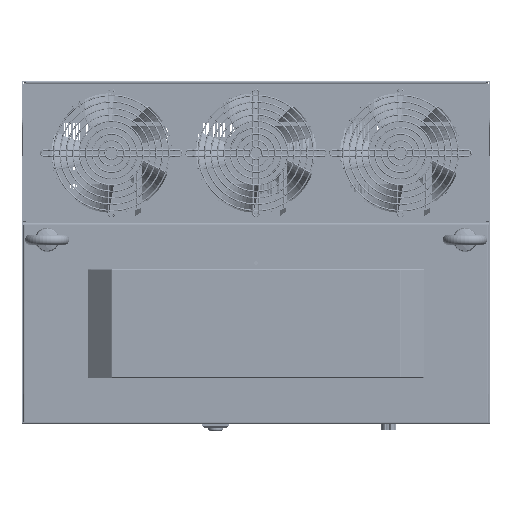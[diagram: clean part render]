
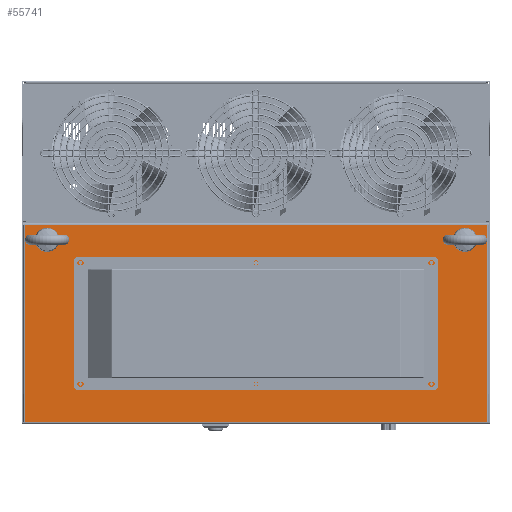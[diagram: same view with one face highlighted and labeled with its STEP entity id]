
A CAD part, left-side view. The second image highlights one B-rep face of the part: STEP entity #55741.
In plain terms, the highlighted planar face has unit normal (-1, 0, 0).
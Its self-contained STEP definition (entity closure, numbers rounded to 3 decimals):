
#51113=DIRECTION('',(0.,-1.,0.));
#51114=VECTOR('',#51113,553.6);
#51115=CARTESIAN_POINT('',(-469.25,276.8,-408.3));
#51116=LINE('',#51115,#51114);
#51264=DIRECTION('',(0.,0.,1.));
#51265=VECTOR('',#51264,236.6);
#51266=CARTESIAN_POINT('',(-469.25,-276.8,-408.3));
#51267=LINE('',#51266,#51265);
#51436=DIRECTION('',(0.,1.,0.));
#51437=VECTOR('',#51436,553.6);
#51438=CARTESIAN_POINT('',(-469.25,-276.8,-171.7));
#51439=LINE('',#51438,#51437);
#52088=DIRECTION('',(0.,0.,-1.));
#52089=VECTOR('',#52088,236.6);
#52090=CARTESIAN_POINT('',(-469.25,276.8,-171.7));
#52091=LINE('',#52090,#52089);
#52095=CARTESIAN_POINT('',(-469.25,250.,-190.));
#52096=DIRECTION('',(-1.,0.,0.));
#52097=DIRECTION('',(0.,-1.,0.));
#52098=AXIS2_PLACEMENT_3D('',#52095,#52096,#52097);
#52103=CARTESIAN_POINT('',(-469.25,250.,-190.));
#52104=DIRECTION('',(-1.,0.,0.));
#52105=DIRECTION('',(0.,1.,0.));
#52106=AXIS2_PLACEMENT_3D('',#52103,#52104,#52105);
#52111=CARTESIAN_POINT('',(-469.25,-250.,-190.));
#52112=DIRECTION('',(-1.,0.,0.));
#52113=DIRECTION('',(0.,-1.,0.));
#52114=AXIS2_PLACEMENT_3D('',#52111,#52112,#52113);
#52119=CARTESIAN_POINT('',(-469.25,-250.,-190.));
#52120=DIRECTION('',(-1.,0.,0.));
#52121=DIRECTION('',(0.,1.,0.));
#52122=AXIS2_PLACEMENT_3D('',#52119,#52120,#52121);
#52127=CARTESIAN_POINT('',(-469.25,210.,-362.5));
#52128=DIRECTION('',(-1.,0.,0.));
#52129=DIRECTION('',(0.,-1.,0.));
#52130=AXIS2_PLACEMENT_3D('',#52127,#52128,#52129);
#52135=CARTESIAN_POINT('',(-469.25,210.,-362.5));
#52136=DIRECTION('',(-1.,0.,0.));
#52137=DIRECTION('',(0.,1.,0.));
#52138=AXIS2_PLACEMENT_3D('',#52135,#52136,#52137);
#52143=CARTESIAN_POINT('',(-469.25,210.,-217.5));
#52144=DIRECTION('',(-1.,0.,0.));
#52145=DIRECTION('',(0.,-1.,0.));
#52146=AXIS2_PLACEMENT_3D('',#52143,#52144,#52145);
#52151=CARTESIAN_POINT('',(-469.25,210.,-217.5));
#52152=DIRECTION('',(-1.,0.,0.));
#52153=DIRECTION('',(0.,1.,0.));
#52154=AXIS2_PLACEMENT_3D('',#52151,#52152,#52153);
#52159=CARTESIAN_POINT('',(-469.25,0.,-217.5));
#52160=DIRECTION('',(-1.,0.,0.));
#52161=DIRECTION('',(0.,-1.,0.));
#52162=AXIS2_PLACEMENT_3D('',#52159,#52160,#52161);
#52167=CARTESIAN_POINT('',(-469.25,0.,-217.5));
#52168=DIRECTION('',(-1.,0.,0.));
#52169=DIRECTION('',(0.,1.,0.));
#52170=AXIS2_PLACEMENT_3D('',#52167,#52168,#52169);
#52175=CARTESIAN_POINT('',(-469.25,0.,-362.5));
#52176=DIRECTION('',(-1.,0.,0.));
#52177=DIRECTION('',(0.,-1.,0.));
#52178=AXIS2_PLACEMENT_3D('',#52175,#52176,#52177);
#52183=CARTESIAN_POINT('',(-469.25,0.,-362.5));
#52184=DIRECTION('',(-1.,0.,0.));
#52185=DIRECTION('',(0.,1.,0.));
#52186=AXIS2_PLACEMENT_3D('',#52183,#52184,#52185);
#52191=CARTESIAN_POINT('',(-469.25,-210.,-362.5));
#52192=DIRECTION('',(-1.,0.,0.));
#52193=DIRECTION('',(0.,-1.,0.));
#52194=AXIS2_PLACEMENT_3D('',#52191,#52192,#52193);
#52199=CARTESIAN_POINT('',(-469.25,-210.,-362.5));
#52200=DIRECTION('',(-1.,0.,0.));
#52201=DIRECTION('',(0.,1.,0.));
#52202=AXIS2_PLACEMENT_3D('',#52199,#52200,#52201);
#52207=CARTESIAN_POINT('',(-469.25,-210.,-217.5));
#52208=DIRECTION('',(-1.,0.,0.));
#52209=DIRECTION('',(0.,-1.,0.));
#52210=AXIS2_PLACEMENT_3D('',#52207,#52208,#52209);
#52215=CARTESIAN_POINT('',(-469.25,-210.,-217.5));
#52216=DIRECTION('',(-1.,0.,0.));
#52217=DIRECTION('',(0.,1.,0.));
#52218=AXIS2_PLACEMENT_3D('',#52215,#52216,#52217);
#52893=DIRECTION('',(0.,0.,-1.));
#52894=VECTOR('',#52893,2.);
#52895=CARTESIAN_POINT('',(-469.25,-193.5,-331.2));
#52896=LINE('',#52895,#52894);
#53009=DIRECTION('',(0.,0.,-1.));
#53010=VECTOR('',#53009,2.);
#53011=CARTESIAN_POINT('',(-469.25,-193.5,-246.8));
#53012=LINE('',#53011,#53010);
#53016=DIRECTION('',(0.,-1.,0.));
#53017=VECTOR('',#53016,277.);
#53018=CARTESIAN_POINT('',(-469.25,83.5,-246.8));
#53019=LINE('',#53018,#53017);
#53037=DIRECTION('',(0.,0.,1.));
#53038=VECTOR('',#53037,2.);
#53039=CARTESIAN_POINT('',(-469.25,83.5,-248.8));
#53040=LINE('',#53039,#53038);
#53153=DIRECTION('',(0.,0.,1.));
#53154=VECTOR('',#53153,2.);
#53155=CARTESIAN_POINT('',(-469.25,83.5,-333.2));
#53156=LINE('',#53155,#53154);
#53160=DIRECTION('',(0.,1.,0.));
#53161=VECTOR('',#53160,277.);
#53162=CARTESIAN_POINT('',(-469.25,-193.5,-333.2));
#53163=LINE('',#53162,#53161);
#53181=DIRECTION('',(0.,0.,1.));
#53182=VECTOR('',#53181,82.4);
#53183=CARTESIAN_POINT('',(-469.25,83.5,-331.2));
#53184=LINE('',#53183,#53182);
#53216=DIRECTION('',(0.,0.,-1.));
#53217=VECTOR('',#53216,82.4);
#53218=CARTESIAN_POINT('',(-469.25,-193.5,-248.8));
#53219=LINE('',#53218,#53217);
#54006=CARTESIAN_POINT('',(-469.25,276.8,-408.3));
#54007=VERTEX_POINT('',#54006);
#54008=CARTESIAN_POINT('',(-469.25,-276.8,-408.3));
#54009=VERTEX_POINT('',#54008);
#54027=CARTESIAN_POINT('',(-469.25,-276.8,-171.7));
#54028=VERTEX_POINT('',#54027);
#54068=CARTESIAN_POINT('',(-469.25,276.8,-171.7));
#54069=VERTEX_POINT('',#54068);
#54270=CARTESIAN_POINT('',(-469.25,243.,-190.));
#54271=CARTESIAN_POINT('',(-469.25,257.,-190.));
#54272=VERTEX_POINT('',#54270);
#54273=VERTEX_POINT('',#54271);
#54274=CARTESIAN_POINT('',(-469.25,-257.,-190.));
#54275=CARTESIAN_POINT('',(-469.25,-243.,-190.));
#54276=VERTEX_POINT('',#54274);
#54277=VERTEX_POINT('',#54275);
#54278=CARTESIAN_POINT('',(-469.25,-193.5,-246.8));
#54279=CARTESIAN_POINT('',(-469.25,-193.5,-248.8));
#54280=VERTEX_POINT('',#54278);
#54281=VERTEX_POINT('',#54279);
#54282=CARTESIAN_POINT('',(-469.25,83.5,-246.8));
#54283=VERTEX_POINT('',#54282);
#54284=CARTESIAN_POINT('',(-469.25,83.5,-248.8));
#54285=VERTEX_POINT('',#54284);
#54286=CARTESIAN_POINT('',(-469.25,83.5,-331.2));
#54287=VERTEX_POINT('',#54286);
#54288=CARTESIAN_POINT('',(-469.25,83.5,-333.2));
#54289=VERTEX_POINT('',#54288);
#54290=CARTESIAN_POINT('',(-469.25,-193.5,-333.2));
#54291=VERTEX_POINT('',#54290);
#54292=CARTESIAN_POINT('',(-469.25,-193.5,-331.2));
#54293=VERTEX_POINT('',#54292);
#54294=CARTESIAN_POINT('',(-469.25,207.9,-362.5));
#54295=CARTESIAN_POINT('',(-469.25,212.1,-362.5));
#54296=VERTEX_POINT('',#54294);
#54297=VERTEX_POINT('',#54295);
#54298=CARTESIAN_POINT('',(-469.25,207.9,-217.5));
#54299=CARTESIAN_POINT('',(-469.25,212.1,-217.5));
#54300=VERTEX_POINT('',#54298);
#54301=VERTEX_POINT('',#54299);
#54302=CARTESIAN_POINT('',(-469.25,-2.1,-217.5));
#54303=CARTESIAN_POINT('',(-469.25,2.1,-217.5));
#54304=VERTEX_POINT('',#54302);
#54305=VERTEX_POINT('',#54303);
#54306=CARTESIAN_POINT('',(-469.25,-2.1,-362.5));
#54307=CARTESIAN_POINT('',(-469.25,2.1,-362.5));
#54308=VERTEX_POINT('',#54306);
#54309=VERTEX_POINT('',#54307);
#54310=CARTESIAN_POINT('',(-469.25,-212.1,-362.5));
#54311=CARTESIAN_POINT('',(-469.25,-207.9,-362.5));
#54312=VERTEX_POINT('',#54310);
#54313=VERTEX_POINT('',#54311);
#54314=CARTESIAN_POINT('',(-469.25,-212.1,-217.5));
#54315=CARTESIAN_POINT('',(-469.25,-207.9,-217.5));
#54316=VERTEX_POINT('',#54314);
#54317=VERTEX_POINT('',#54315);
#55664=CARTESIAN_POINT('',(-469.25,-280.,-380.));
#55665=DIRECTION('',(-1.,0.,0.));
#55666=DIRECTION('',(0.,0.,1.));
#55667=AXIS2_PLACEMENT_3D('',#55664,#55665,#55666);
#55668=PLANE('',#55667);
#55669=ORIENTED_EDGE('',*,*,#54962,.F.);
#55670=ORIENTED_EDGE('',*,*,#55657,.F.);
#55671=ORIENTED_EDGE('',*,*,#55187,.F.);
#55672=ORIENTED_EDGE('',*,*,#55079,.F.);
#55673=EDGE_LOOP('',(#55669,#55670,#55671,#55672));
#55674=FACE_OUTER_BOUND('',#55673,.F.);
#55676=ORIENTED_EDGE('',*,*,#55675,.T.);
#55678=ORIENTED_EDGE('',*,*,#55677,.T.);
#55679=EDGE_LOOP('',(#55676,#55678));
#55680=FACE_BOUND('',#55679,.F.);
#55682=ORIENTED_EDGE('',*,*,#55681,.T.);
#55684=ORIENTED_EDGE('',*,*,#55683,.T.);
#55685=EDGE_LOOP('',(#55682,#55684));
#55686=FACE_BOUND('',#55685,.F.);
#55688=ORIENTED_EDGE('',*,*,#55687,.F.);
#55690=ORIENTED_EDGE('',*,*,#55689,.F.);
#55692=ORIENTED_EDGE('',*,*,#55691,.F.);
#55694=ORIENTED_EDGE('',*,*,#55693,.F.);
#55696=ORIENTED_EDGE('',*,*,#55695,.F.);
#55698=ORIENTED_EDGE('',*,*,#55697,.F.);
#55700=ORIENTED_EDGE('',*,*,#55699,.F.);
#55702=ORIENTED_EDGE('',*,*,#55701,.F.);
#55703=EDGE_LOOP('',(#55688,#55690,#55692,#55694,#55696,#55698,#55700,#55702));
#55704=FACE_BOUND('',#55703,.F.);
#55706=ORIENTED_EDGE('',*,*,#55705,.T.);
#55708=ORIENTED_EDGE('',*,*,#55707,.T.);
#55709=EDGE_LOOP('',(#55706,#55708));
#55710=FACE_BOUND('',#55709,.F.);
#55712=ORIENTED_EDGE('',*,*,#55711,.T.);
#55714=ORIENTED_EDGE('',*,*,#55713,.T.);
#55715=EDGE_LOOP('',(#55712,#55714));
#55716=FACE_BOUND('',#55715,.F.);
#55718=ORIENTED_EDGE('',*,*,#55717,.T.);
#55720=ORIENTED_EDGE('',*,*,#55719,.T.);
#55721=EDGE_LOOP('',(#55718,#55720));
#55722=FACE_BOUND('',#55721,.F.);
#55724=ORIENTED_EDGE('',*,*,#55723,.T.);
#55726=ORIENTED_EDGE('',*,*,#55725,.T.);
#55727=EDGE_LOOP('',(#55724,#55726));
#55728=FACE_BOUND('',#55727,.F.);
#55730=ORIENTED_EDGE('',*,*,#55729,.T.);
#55732=ORIENTED_EDGE('',*,*,#55731,.T.);
#55733=EDGE_LOOP('',(#55730,#55732));
#55734=FACE_BOUND('',#55733,.F.);
#55736=ORIENTED_EDGE('',*,*,#55735,.T.);
#55738=ORIENTED_EDGE('',*,*,#55737,.T.);
#55739=EDGE_LOOP('',(#55736,#55738));
#55740=FACE_BOUND('',#55739,.F.);
#52099=CIRCLE('',#52098,7.);
#52107=CIRCLE('',#52106,7.);
#52115=CIRCLE('',#52114,7.);
#52123=CIRCLE('',#52122,7.);
#52131=CIRCLE('',#52130,2.1);
#52139=CIRCLE('',#52138,2.1);
#52147=CIRCLE('',#52146,2.1);
#52155=CIRCLE('',#52154,2.1);
#52163=CIRCLE('',#52162,2.1);
#52171=CIRCLE('',#52170,2.1);
#52179=CIRCLE('',#52178,2.1);
#52187=CIRCLE('',#52186,2.1);
#52195=CIRCLE('',#52194,2.1);
#52203=CIRCLE('',#52202,2.1);
#52211=CIRCLE('',#52210,2.1);
#52219=CIRCLE('',#52218,2.1);
#54962=EDGE_CURVE('',#54007,#54009,#51116,.T.);
#55079=EDGE_CURVE('',#54009,#54028,#51267,.T.);
#55187=EDGE_CURVE('',#54028,#54069,#51439,.T.);
#55657=EDGE_CURVE('',#54069,#54007,#52091,.T.);
#55675=EDGE_CURVE('',#54272,#54273,#52099,.T.);
#55677=EDGE_CURVE('',#54273,#54272,#52107,.T.);
#55681=EDGE_CURVE('',#54276,#54277,#52115,.T.);
#55683=EDGE_CURVE('',#54277,#54276,#52123,.T.);
#55687=EDGE_CURVE('',#54280,#54281,#53012,.T.);
#55689=EDGE_CURVE('',#54283,#54280,#53019,.T.);
#55691=EDGE_CURVE('',#54285,#54283,#53040,.T.);
#55693=EDGE_CURVE('',#54287,#54285,#53184,.T.);
#55695=EDGE_CURVE('',#54289,#54287,#53156,.T.);
#55697=EDGE_CURVE('',#54291,#54289,#53163,.T.);
#55699=EDGE_CURVE('',#54293,#54291,#52896,.T.);
#55701=EDGE_CURVE('',#54281,#54293,#53219,.T.);
#55705=EDGE_CURVE('',#54296,#54297,#52131,.T.);
#55707=EDGE_CURVE('',#54297,#54296,#52139,.T.);
#55711=EDGE_CURVE('',#54300,#54301,#52147,.T.);
#55713=EDGE_CURVE('',#54301,#54300,#52155,.T.);
#55717=EDGE_CURVE('',#54304,#54305,#52163,.T.);
#55719=EDGE_CURVE('',#54305,#54304,#52171,.T.);
#55723=EDGE_CURVE('',#54308,#54309,#52179,.T.);
#55725=EDGE_CURVE('',#54309,#54308,#52187,.T.);
#55729=EDGE_CURVE('',#54312,#54313,#52195,.T.);
#55731=EDGE_CURVE('',#54313,#54312,#52203,.T.);
#55735=EDGE_CURVE('',#54316,#54317,#52211,.T.);
#55737=EDGE_CURVE('',#54317,#54316,#52219,.T.);
#55741=ADVANCED_FACE('',(#55674,#55680,#55686,#55704,#55710,#55716,#55722,
#55728,#55734,#55740),#55668,.T.);
